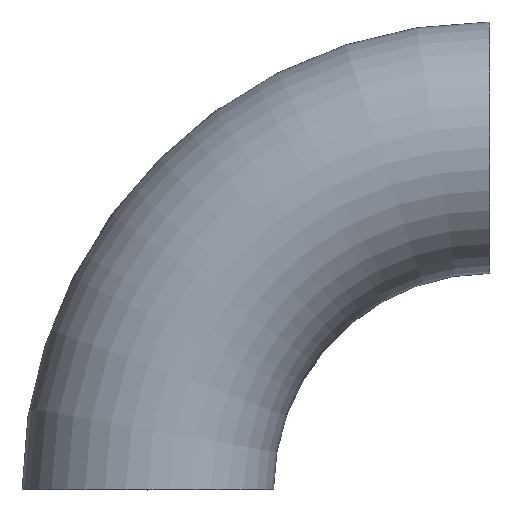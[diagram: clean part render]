
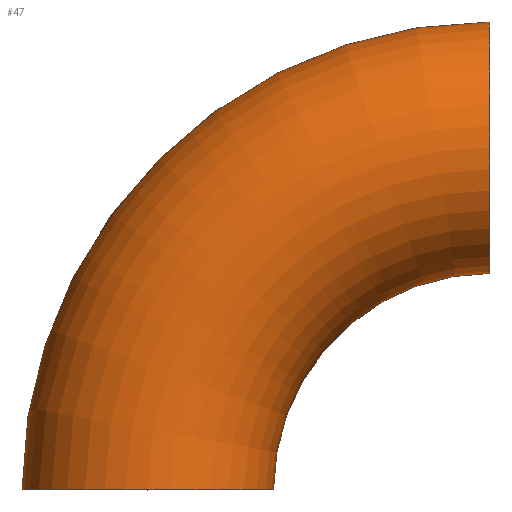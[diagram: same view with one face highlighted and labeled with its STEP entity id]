
A CAD part, top view. The second image highlights one B-rep face of the part: STEP entity #47.
In plain terms, the highlighted toroidal (fillet/blend) face has major radius 229 mm and minor radius 84.15 mm.
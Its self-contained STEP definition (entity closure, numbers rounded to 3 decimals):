
#15 = EDGE_CURVE ( 'NONE', #36, #246, #114, .T. ) ;
#18 = CARTESIAN_POINT ( 'NONE',  ( 229., 229., 0. ) ) ;
#20 = DIRECTION ( 'NONE',  ( 0., 0., 1. ) ) ;
#22 = ORIENTED_EDGE ( 'NONE', *, *, #174, .T. ) ;
#25 = AXIS2_PLACEMENT_3D ( 'NONE', #18, #126, #123 ) ;
#27 = ORIENTED_EDGE ( 'NONE', *, *, #216, .F. ) ;
#35 = ORIENTED_EDGE ( 'NONE', *, *, #187, .F. ) ;
#36 = VERTEX_POINT ( 'NONE', #235 ) ;
#47 = ADVANCED_FACE ( 'NONE', ( #92 ), #109, .T. ) ;
#68 = VERTEX_POINT ( 'NONE', #195 ) ;
#77 = AXIS2_PLACEMENT_3D ( 'NONE', #106, #20, #146 ) ;
#79 = DIRECTION ( 'NONE',  ( 1., 0., 0. ) ) ;
#92 = FACE_OUTER_BOUND ( 'NONE', #120, .T. ) ;
#95 = ORIENTED_EDGE ( 'NONE', *, *, #15, .T. ) ;
#99 = DIRECTION ( 'NONE',  ( 1., 0., 0. ) ) ;
#101 = VERTEX_POINT ( 'NONE', #197 ) ;
#104 = CARTESIAN_POINT ( 'NONE',  ( 229., 0., 0. ) ) ;
#106 = CARTESIAN_POINT ( 'NONE',  ( 229., 0., 0. ) ) ;
#109 = TOROIDAL_SURFACE ( 'NONE', #158, 229., 84.15 ) ;
#114 = CIRCLE ( 'NONE', #155, 84.15 ) ;
#120 = EDGE_LOOP ( 'NONE', ( #35, #22, #95, #27 ) ) ;
#123 = DIRECTION ( 'NONE',  ( 0., 0., 1. ) ) ;
#126 = DIRECTION ( 'NONE',  ( 1., 0., 0. ) ) ;
#128 = CIRCLE ( 'NONE', #160, 144.85 ) ;
#138 = DIRECTION ( 'NONE',  ( 0., 1., 0. ) ) ;
#146 = DIRECTION ( 'NONE',  ( 1., 0., 0. ) ) ;
#155 = AXIS2_PLACEMENT_3D ( 'NONE', #162, #138, #251 ) ;
#158 = AXIS2_PLACEMENT_3D ( 'NONE', #211, #212, #99 ) ;
#160 = AXIS2_PLACEMENT_3D ( 'NONE', #104, #239, #79 ) ;
#162 = CARTESIAN_POINT ( 'NONE',  ( 0., 0., 0. ) ) ;
#174 = EDGE_CURVE ( 'NONE', #68, #36, #186, .T. ) ;
#180 = CIRCLE ( 'NONE', #25, 84.15 ) ;
#186 = CIRCLE ( 'NONE', #77, 313.15 ) ;
#187 = EDGE_CURVE ( 'NONE', #68, #101, #180, .T. ) ;
#195 = CARTESIAN_POINT ( 'NONE',  ( 229., 313.15, 0. ) ) ;
#197 = CARTESIAN_POINT ( 'NONE',  ( 229., 144.85, 0. ) ) ;
#211 = CARTESIAN_POINT ( 'NONE',  ( 229., 0., 0. ) ) ;
#212 = DIRECTION ( 'NONE',  ( 0., 0., 1. ) ) ;
#216 = EDGE_CURVE ( 'NONE', #101, #246, #128, .T. ) ;
#235 = CARTESIAN_POINT ( 'NONE',  ( -84.15, 0., 0. ) ) ;
#237 = CARTESIAN_POINT ( 'NONE',  ( 84.15, 0., 0. ) ) ;
#239 = DIRECTION ( 'NONE',  ( 0., 0., 1. ) ) ;
#246 = VERTEX_POINT ( 'NONE', #237 ) ;
#251 = DIRECTION ( 'NONE',  ( 0., 0., 1. ) ) ;
